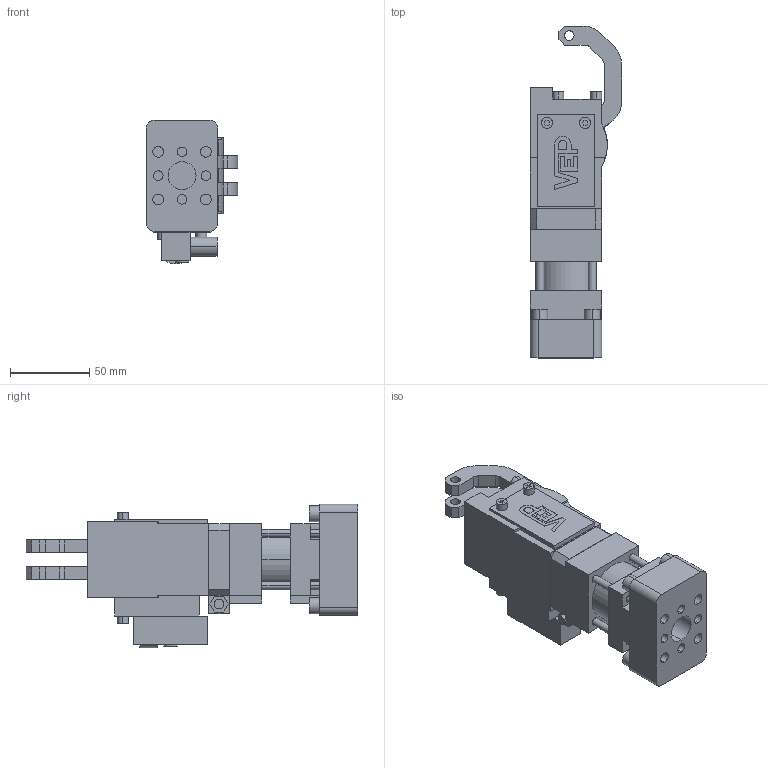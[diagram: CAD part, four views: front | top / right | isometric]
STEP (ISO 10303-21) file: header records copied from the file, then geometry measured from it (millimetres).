
FILE_DESCRIPTION (( 'STEP AP214' ), '1' );
FILE_NAME ('b32_axsx_pra___x_c.STEP', '2018-05-08T12:45:50', ( 'vepadmin' ), ( 'Hewlett-Packard Company' ), 'SwSTEP 2.0', 'SolidWorks 2018', '' );
FILE_SCHEMA (( 'AUTOMOTIVE_DESIGN' ));
Length unit declared in the file: millimetre
Products named in the file (9): attacco_c_b32; gruppo_cilindro_piastra_c_b32; distanziale_b32; blocchetto_p&f_90; scatola_micro_b32; riparo_micro_b32; leva_b32a_x; gruppo_montante_b32a; b32_axsx_pra___x_c
Assembly tree (8 placements, depth 2):
  b32_axsx_pra___x_c
    gruppo_montante_b32a
    leva_b32a_x
    riparo_micro_b32
    scatola_micro_b32
    blocchetto_p&f_90
    distanziale_b32
    gruppo_cilindro_piastra_c_b32
    attacco_c_b32
Bounding box: 57.5 x 209 x 90.6 mm (x, y, z)
Volume: 394067.3 mm3; surface area: 103864.5 mm2
Topology: 9 solids, 9 shells, 516 faces, 1299 edges, 855 vertices
Faces by surface type: plane 314, cylinder 184, cone 18
Entity records: 16052 total; most frequent: DIRECTION 2731, CARTESIAN_POINT 2675, ORIENTED_EDGE 2586, EDGE_CURVE 1293, AXIS2_PLACEMENT_3D 911, LINE 909, VECTOR 909, VERTEX_POINT 855
